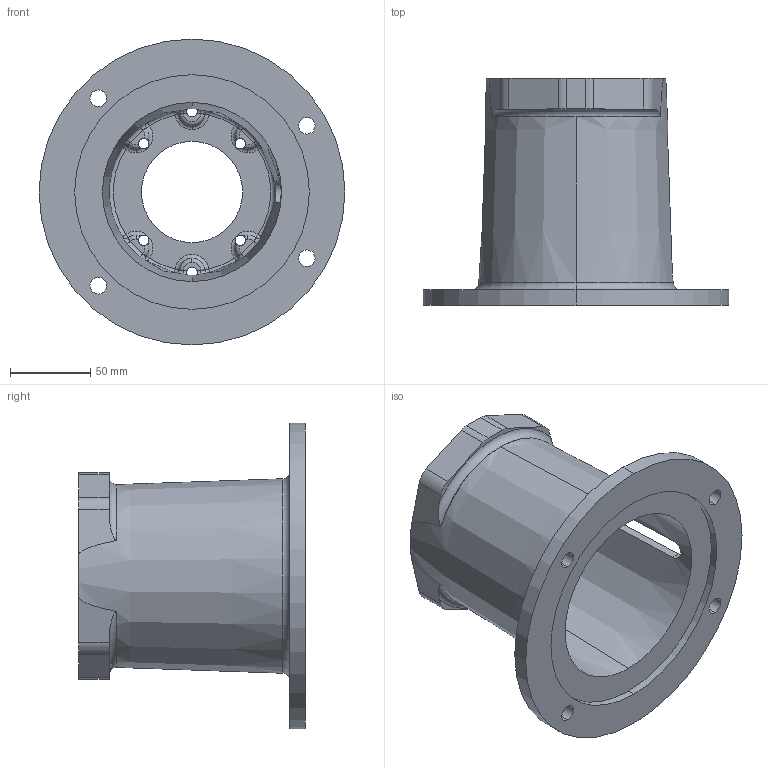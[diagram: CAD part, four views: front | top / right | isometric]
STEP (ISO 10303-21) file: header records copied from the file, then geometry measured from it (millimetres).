
FILE_DESCRIPTION (( 'STEP AP203' ), '1' );
FILE_NAME ('E5755263M.STEP', '2014-11-03T15:43:12', ( '' ), ( '' ), 'SwSTEP 2.0', 'SolidWorks 2014', '' );
FILE_SCHEMA (( 'CONFIG_CONTROL_DESIGN' ));
Length unit declared in the file: inch
Products named in the file (1): E5755263M
Bounding box: 190.5 x 141.22 x 190.5 mm (x, y, z)
Volume: 475168.2 mm3; surface area: 151587.3 mm2
Topology: 1 solids, 1 shells, 183 faces, 487 edges, 291 vertices
Faces by surface type: torus 57, cylinder 36, plane 25, sphere 24, bspline 24, cone 17
Entity records: 7688 total; most frequent: CARTESIAN_POINT 3166, DIRECTION 975, ORIENTED_EDGE 950, EDGE_CURVE 475, AXIS2_PLACEMENT_3D 452, CIRCLE 292, VERTEX_POINT 291, EDGE_LOOP 204
